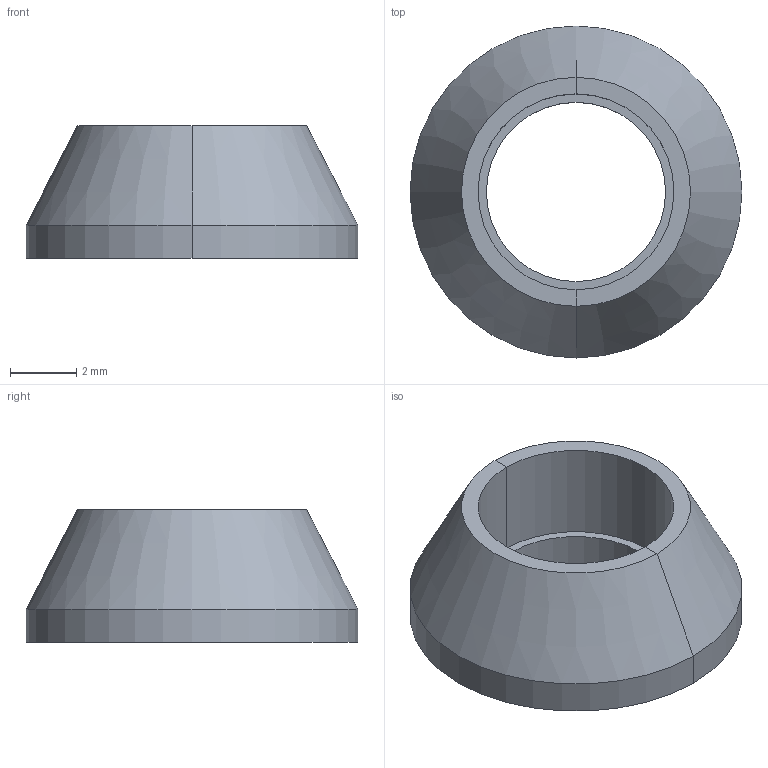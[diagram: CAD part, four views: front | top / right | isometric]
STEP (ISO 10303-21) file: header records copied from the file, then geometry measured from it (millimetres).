
FILE_DESCRIPTION(/* description */ (''),/* implementation_level */ '2;1');
FILE_NAME(/* name */ 'Tapered Bolt Cover ReDo V4',/* time_stamp */ '2025-05-16T19:28:31-04:00',/* author */ (''),/* organization */ (''),/* preprocessor_version */ 'ST-DEVELOPER v19.2',/* originating_system */ 'Rhino 8.19',/* authorisation */ '');
FILE_SCHEMA (('CONFIG_CONTROL_DESIGN'));
Length unit declared in the file: millimetre
Products named in the file (1): Document
Bounding box: 10 x 10 x 4 mm (x, y, z)
Volume: 143.7 mm3; surface area: 263.7 mm2
Topology: 1 solids, 1 shells, 12 faces, 24 edges, 14 vertices
Faces by surface type: cylinder 6, plane 4, bspline 2
Entity records: 454 total; most frequent: CARTESIAN_POINT 136, ORIENTED_EDGE 48, DIRECTION 42, AXIS2_PLACEMENT_3D 26, EDGE_CURVE 24, EDGE_LOOP 14, TRIMMED_CURVE 14, CIRCLE 14
